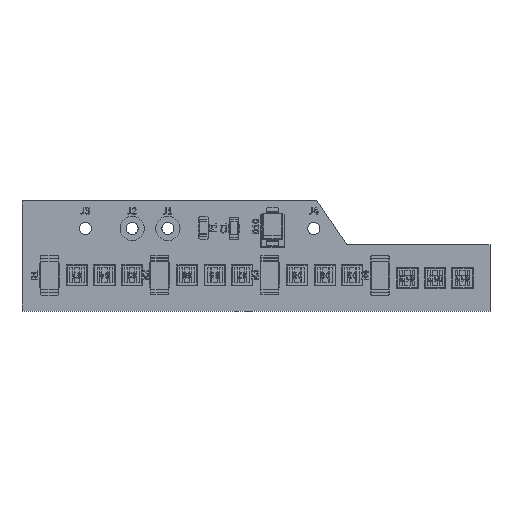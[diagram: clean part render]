
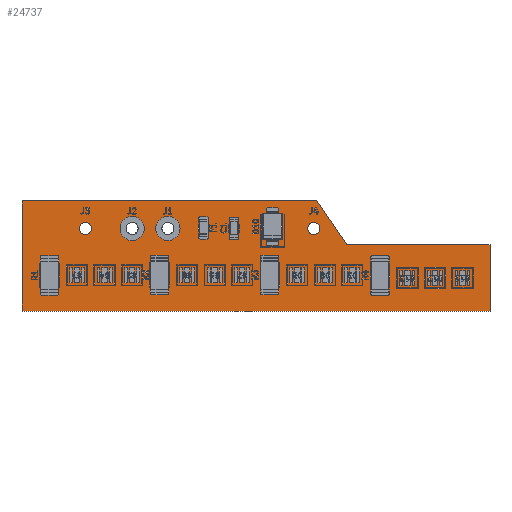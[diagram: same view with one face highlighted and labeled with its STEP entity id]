
A CAD part, top view. The second image highlights one B-rep face of the part: STEP entity #24737.
In plain terms, the highlighted planar face has unit normal (0, 0, 1).
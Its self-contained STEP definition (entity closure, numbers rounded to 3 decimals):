
#24557 = VERTEX_POINT('',#24558);
#24558 = CARTESIAN_POINT('',(139.,-24.5,1.51));
#24564 = EDGE_CURVE('',#24557,#24565,#24567,.T.);
#24565 = VERTEX_POINT('',#24566);
#24566 = CARTESIAN_POINT('',(165.,-24.5,1.51));
#24567 = LINE('',#24568,#24569);
#24568 = CARTESIAN_POINT('',(139.,-24.5,1.51));
#24569 = VECTOR('',#24570,1.);
#24570 = DIRECTION('',(1.,0.,0.));
#24597 = VERTEX_POINT('',#24598);
#24598 = CARTESIAN_POINT('',(133.5,-16.5,1.51));
#24604 = EDGE_CURVE('',#24597,#24557,#24605,.T.);
#24605 = LINE('',#24606,#24607);
#24606 = CARTESIAN_POINT('',(133.5,-16.5,1.51));
#24607 = VECTOR('',#24608,1.);
#24608 = DIRECTION('',(0.567,-0.824,0.));
#24626 = EDGE_CURVE('',#24565,#24627,#24629,.T.);
#24627 = VERTEX_POINT('',#24628);
#24628 = CARTESIAN_POINT('',(165.,-36.5,1.51));
#24629 = LINE('',#24630,#24631);
#24630 = CARTESIAN_POINT('',(165.,-24.5,1.51));
#24631 = VECTOR('',#24632,1.);
#24632 = DIRECTION('',(0.,-1.,0.));
#24737 = ADVANCED_FACE('',(#24738,#24773,#24784,#24795,#24806),#24817,
  .T.);
#24738 = FACE_BOUND('',#24739,.T.);
#24739 = EDGE_LOOP('',(#24740,#24741,#24742,#24750,#24758,#24766,#24772)
  );
#24740 = ORIENTED_EDGE('',*,*,#24564,.F.);
#24741 = ORIENTED_EDGE('',*,*,#24604,.F.);
#24742 = ORIENTED_EDGE('',*,*,#24743,.F.);
#24743 = EDGE_CURVE('',#24744,#24597,#24746,.T.);
#24744 = VERTEX_POINT('',#24745);
#24745 = CARTESIAN_POINT('',(80.,-16.5,1.51));
#24746 = LINE('',#24747,#24748);
#24747 = CARTESIAN_POINT('',(80.,-16.5,1.51));
#24748 = VECTOR('',#24749,1.);
#24749 = DIRECTION('',(1.,0.,0.));
#24750 = ORIENTED_EDGE('',*,*,#24751,.F.);
#24751 = EDGE_CURVE('',#24752,#24744,#24754,.T.);
#24752 = VERTEX_POINT('',#24753);
#24753 = CARTESIAN_POINT('',(80.,-18.,1.51));
#24754 = LINE('',#24755,#24756);
#24755 = CARTESIAN_POINT('',(80.,-18.,1.51));
#24756 = VECTOR('',#24757,1.);
#24757 = DIRECTION('',(0.,1.,0.));
#24758 = ORIENTED_EDGE('',*,*,#24759,.F.);
#24759 = EDGE_CURVE('',#24760,#24752,#24762,.T.);
#24760 = VERTEX_POINT('',#24761);
#24761 = CARTESIAN_POINT('',(80.,-36.5,1.51));
#24762 = LINE('',#24763,#24764);
#24763 = CARTESIAN_POINT('',(80.,-36.5,1.51));
#24764 = VECTOR('',#24765,1.);
#24765 = DIRECTION('',(0.,1.,0.));
#24766 = ORIENTED_EDGE('',*,*,#24767,.F.);
#24767 = EDGE_CURVE('',#24627,#24760,#24768,.T.);
#24768 = LINE('',#24769,#24770);
#24769 = CARTESIAN_POINT('',(165.,-36.5,1.51));
#24770 = VECTOR('',#24771,1.);
#24771 = DIRECTION('',(-1.,0.,0.));
#24772 = ORIENTED_EDGE('',*,*,#24626,.F.);
#24773 = FACE_BOUND('',#24774,.T.);
#24774 = EDGE_LOOP('',(#24775));
#24775 = ORIENTED_EDGE('',*,*,#24776,.T.);
#24776 = EDGE_CURVE('',#24777,#24777,#24779,.T.);
#24777 = VERTEX_POINT('',#24778);
#24778 = CARTESIAN_POINT('',(91.5,-22.6,1.51));
#24779 = CIRCLE('',#24780,1.1);
#24780 = AXIS2_PLACEMENT_3D('',#24781,#24782,#24783);
#24781 = CARTESIAN_POINT('',(91.5,-21.5,1.51));
#24782 = DIRECTION('',(-0.,0.,-1.));
#24783 = DIRECTION('',(-0.,-1.,0.));
#24784 = FACE_BOUND('',#24785,.T.);
#24785 = EDGE_LOOP('',(#24786));
#24786 = ORIENTED_EDGE('',*,*,#24787,.T.);
#24787 = EDGE_CURVE('',#24788,#24788,#24790,.T.);
#24788 = VERTEX_POINT('',#24789);
#24789 = CARTESIAN_POINT('',(100.,-22.6,1.51));
#24790 = CIRCLE('',#24791,1.1);
#24791 = AXIS2_PLACEMENT_3D('',#24792,#24793,#24794);
#24792 = CARTESIAN_POINT('',(100.,-21.5,1.51));
#24793 = DIRECTION('',(-0.,0.,-1.));
#24794 = DIRECTION('',(-0.,-1.,0.));
#24795 = FACE_BOUND('',#24796,.T.);
#24796 = EDGE_LOOP('',(#24797));
#24797 = ORIENTED_EDGE('',*,*,#24798,.T.);
#24798 = EDGE_CURVE('',#24799,#24799,#24801,.T.);
#24799 = VERTEX_POINT('',#24800);
#24800 = CARTESIAN_POINT('',(106.5,-22.6,1.51));
#24801 = CIRCLE('',#24802,1.1);
#24802 = AXIS2_PLACEMENT_3D('',#24803,#24804,#24805);
#24803 = CARTESIAN_POINT('',(106.5,-21.5,1.51));
#24804 = DIRECTION('',(-0.,0.,-1.));
#24805 = DIRECTION('',(-0.,-1.,0.));
#24806 = FACE_BOUND('',#24807,.T.);
#24807 = EDGE_LOOP('',(#24808));
#24808 = ORIENTED_EDGE('',*,*,#24809,.T.);
#24809 = EDGE_CURVE('',#24810,#24810,#24812,.T.);
#24810 = VERTEX_POINT('',#24811);
#24811 = CARTESIAN_POINT('',(133.,-22.6,1.51));
#24812 = CIRCLE('',#24813,1.1);
#24813 = AXIS2_PLACEMENT_3D('',#24814,#24815,#24816);
#24814 = CARTESIAN_POINT('',(133.,-21.5,1.51));
#24815 = DIRECTION('',(-0.,0.,-1.));
#24816 = DIRECTION('',(-0.,-1.,0.));
#24817 = PLANE('',#24818);
#24818 = AXIS2_PLACEMENT_3D('',#24819,#24820,#24821);
#24819 = CARTESIAN_POINT('',(0.,0.,1.51));
#24820 = DIRECTION('',(0.,0.,1.));
#24821 = DIRECTION('',(1.,0.,-0.));
